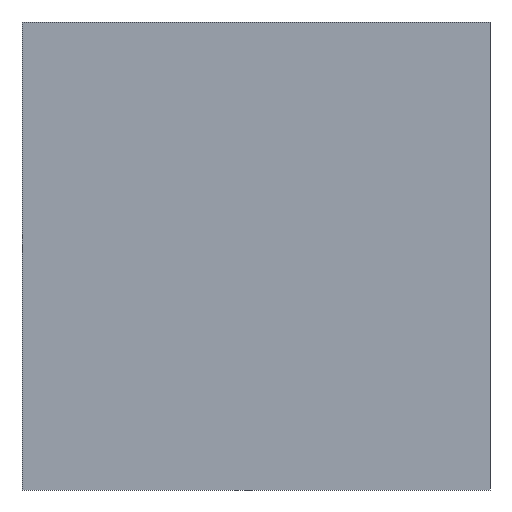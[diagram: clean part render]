
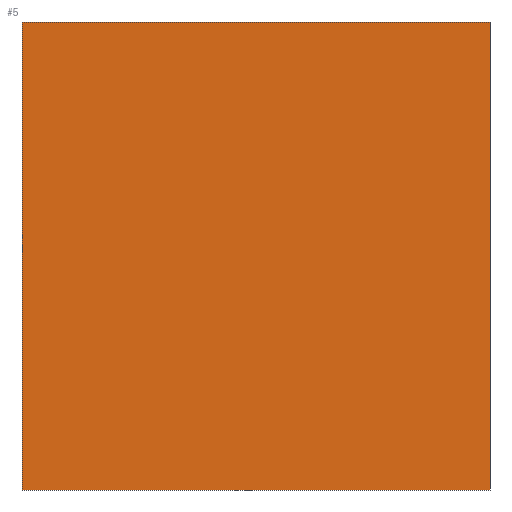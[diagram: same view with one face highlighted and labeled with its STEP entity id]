
A CAD part, left-side view. The second image highlights one B-rep face of the part: STEP entity #5.
In plain terms, the highlighted planar face has unit normal (-1, 0, 0).
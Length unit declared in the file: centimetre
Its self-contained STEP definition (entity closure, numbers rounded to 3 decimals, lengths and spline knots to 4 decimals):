
#5 = ADVANCED_FACE ( 'NONE', ( #146 ), #326, .F. ) ;
#18 = ORIENTED_EDGE ( 'NONE', *, *, #344, .T. ) ;
#25 = DIRECTION ( 'NONE',  ( 0., 0., -1. ) ) ;
#54 = EDGE_LOOP ( 'NONE', ( #18, #265, #82, #119 ) ) ;
#55 = CARTESIAN_POINT ( 'NONE',  ( 0., 1000., 1000. ) ) ;
#80 = VECTOR ( 'NONE', #108, 100. ) ;
#82 = ORIENTED_EDGE ( 'NONE', *, *, #268, .F. ) ;
#86 = LINE ( 'NONE', #55, #208 ) ;
#102 = DIRECTION ( 'NONE',  ( 0., 0., -1. ) ) ;
#108 = DIRECTION ( 'NONE',  ( 0., -1., 0. ) ) ;
#119 = ORIENTED_EDGE ( 'NONE', *, *, #313, .T. ) ;
#121 = VERTEX_POINT ( 'NONE', #223 ) ;
#136 = LINE ( 'NONE', #255, #80 ) ;
#146 = FACE_OUTER_BOUND ( 'NONE', #54, .T. ) ;
#156 = CARTESIAN_POINT ( 'NONE',  ( 0., 0., 1000. ) ) ;
#166 = CARTESIAN_POINT ( 'NONE',  ( 0., 0., 0. ) ) ;
#172 = VECTOR ( 'NONE', #102, 100. ) ;
#208 = VECTOR ( 'NONE', #357, 100. ) ;
#214 = LINE ( 'NONE', #156, #172 ) ;
#223 = CARTESIAN_POINT ( 'NONE',  ( 0., 1000., 0. ) ) ;
#229 = VECTOR ( 'NONE', #307, 100. ) ;
#230 = CARTESIAN_POINT ( 'NONE',  ( 0., 0., 1000. ) ) ;
#255 = CARTESIAN_POINT ( 'NONE',  ( 0., 1000., 0. ) ) ;
#265 = ORIENTED_EDGE ( 'NONE', *, *, #332, .F. ) ;
#268 = EDGE_CURVE ( 'NONE', #270, #381, #359, .T. ) ;
#270 = VERTEX_POINT ( 'NONE', #296 ) ;
#274 = DIRECTION ( 'NONE',  ( 1., 0., 0. ) ) ;
#296 = CARTESIAN_POINT ( 'NONE',  ( 0., 1000., 1000. ) ) ;
#307 = DIRECTION ( 'NONE',  ( 0., -1., 0. ) ) ;
#313 = EDGE_CURVE ( 'NONE', #270, #121, #86, .T. ) ;
#326 = PLANE ( 'NONE',  #397 ) ;
#332 = EDGE_CURVE ( 'NONE', #381, #394, #214, .T. ) ;
#334 = CARTESIAN_POINT ( 'NONE',  ( 0., 1000., 1000. ) ) ;
#344 = EDGE_CURVE ( 'NONE', #121, #394, #136, .T. ) ;
#357 = DIRECTION ( 'NONE',  ( 0., 0., -1. ) ) ;
#359 = LINE ( 'NONE', #399, #229 ) ;
#381 = VERTEX_POINT ( 'NONE', #230 ) ;
#394 = VERTEX_POINT ( 'NONE', #166 ) ;
#397 = AXIS2_PLACEMENT_3D ( 'NONE', #334, #274, #25 ) ;
#399 = CARTESIAN_POINT ( 'NONE',  ( 0., 1000., 1000. ) ) ;
